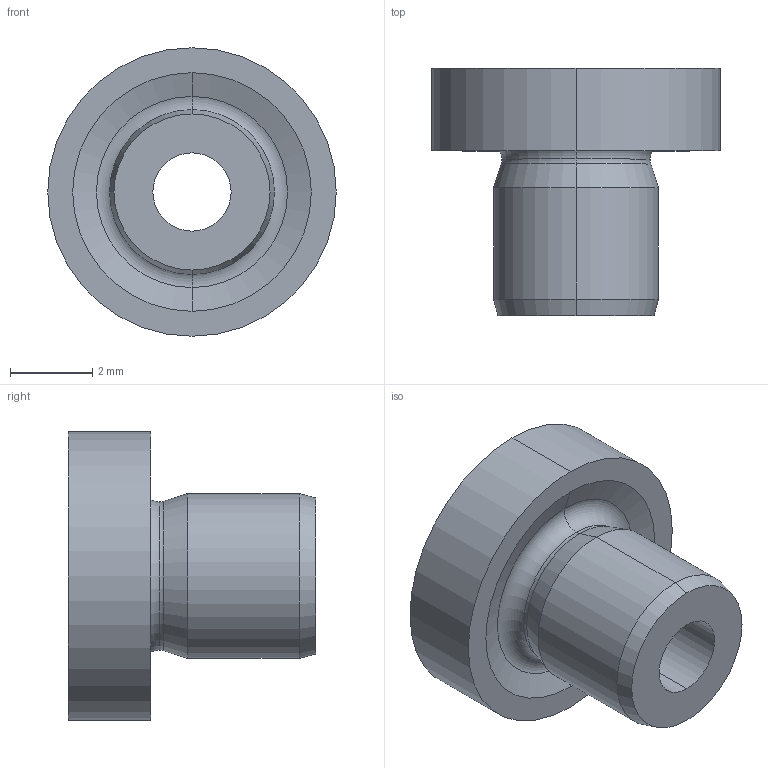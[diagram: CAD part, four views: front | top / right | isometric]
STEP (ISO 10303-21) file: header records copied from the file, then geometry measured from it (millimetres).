
FILE_DESCRIPTION (( 'STEP AP214' ), '1' );
FILE_NAME ('172-B1,9-6-A.step', '2024-10-17T05:11:52', ( '' ), ( '' ), 'SwSTEP 2.0', 'SolidWorks 2022', '' );
FILE_SCHEMA (( 'AUTOMOTIVE_DESIGN' ));
Length unit declared in the file: millimetre
Products named in the file (1): 172-B1,9-6-A
Bounding box: 7 x 6 x 7 mm (x, y, z)
Volume: 106.8 mm3; surface area: 202.7 mm2
Topology: 1 solids, 1 shells, 21 faces, 42 edges, 24 vertices
Faces by surface type: torus 6, cone 6, cylinder 6, plane 3
Entity records: 632 total; most frequent: DIRECTION 116, CARTESIAN_POINT 88, ORIENTED_EDGE 84, AXIS2_PLACEMENT_3D 52, EDGE_CURVE 42, CIRCLE 30, VERTEX_POINT 24, EDGE_LOOP 24
